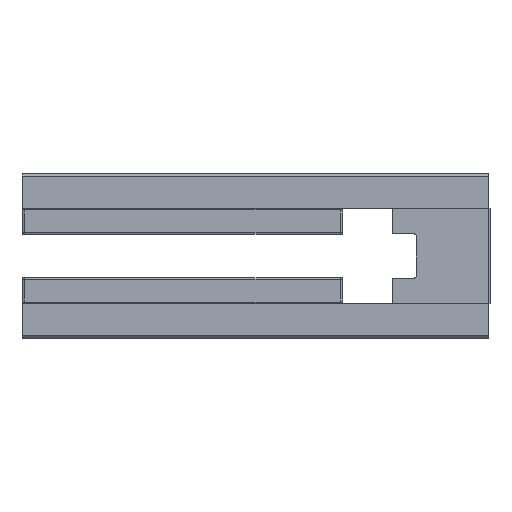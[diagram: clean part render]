
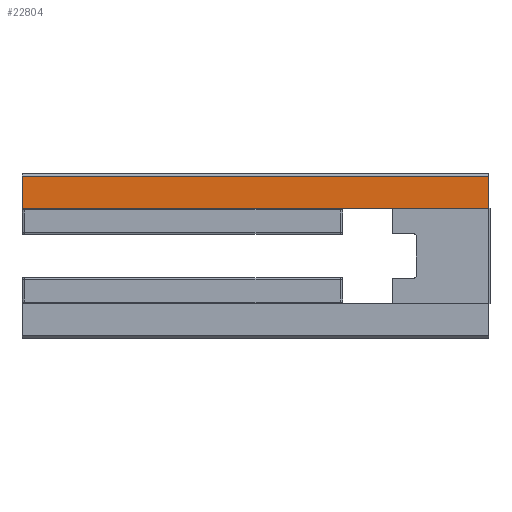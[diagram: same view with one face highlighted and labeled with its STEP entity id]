
A CAD part, front view. The second image highlights one B-rep face of the part: STEP entity #22804.
In plain terms, the highlighted planar face has unit normal (0, -1, 0).
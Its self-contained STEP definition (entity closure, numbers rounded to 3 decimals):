
#447 = EDGE_CURVE ( 'NONE', #37841, #25928, #29363, .T. ) ;
#1618 = CARTESIAN_POINT ( 'NONE',  ( 0., 19.04, 0. ) ) ;
#2524 = LINE ( 'NONE', #6292, #18206 ) ;
#3770 = AXIS2_PLACEMENT_3D ( 'NONE', #33394, #25109, #11148 ) ;
#4073 = FACE_OUTER_BOUND ( 'NONE', #14190, .T. ) ;
#4423 = VERTEX_POINT ( 'NONE', #9392 ) ;
#4488 = VECTOR ( 'NONE', #15404, 1000. ) ;
#6292 = CARTESIAN_POINT ( 'NONE',  ( 80., 19.04, -4. ) ) ;
#7826 = ORIENTED_EDGE ( 'NONE', *, *, #15874, .T. ) ;
#8925 = DIRECTION ( 'NONE',  ( 1., 0., 0. ) ) ;
#9325 = EDGE_CURVE ( 'NONE', #37841, #4423, #34007, .T. ) ;
#9392 = CARTESIAN_POINT ( 'NONE',  ( 80., 19.04, 0. ) ) ;
#9602 = DIRECTION ( 'NONE',  ( 0., 0., 1. ) ) ;
#10707 = PLANE ( 'NONE',  #3770 ) ;
#11148 = DIRECTION ( 'NONE',  ( 1., 0., 0. ) ) ;
#11162 = CARTESIAN_POINT ( 'NONE',  ( 80., 19.04, 5.5 ) ) ;
#12470 = VECTOR ( 'NONE', #8925, 1000. ) ;
#14190 = EDGE_LOOP ( 'NONE', ( #7826, #33931, #29765, #32758 ) ) ;
#15404 = DIRECTION ( 'NONE',  ( 0., 0., 1. ) ) ;
#15874 = EDGE_CURVE ( 'NONE', #4423, #39356, #2524, .T. ) ;
#18206 = VECTOR ( 'NONE', #9602, 1000. ) ;
#18304 = CARTESIAN_POINT ( 'NONE',  ( 0., 19.04, 0. ) ) ;
#18761 = LINE ( 'NONE', #32966, #24973 ) ;
#22804 = ADVANCED_FACE ( 'NONE', ( #4073 ), #10707, .F. ) ;
#24973 = VECTOR ( 'NONE', #26083, 1000. ) ;
#25109 = DIRECTION ( 'NONE',  ( 0., 1., 0. ) ) ;
#25928 = VERTEX_POINT ( 'NONE', #29125 ) ;
#26083 = DIRECTION ( 'NONE',  ( -1., 0., 0. ) ) ;
#29125 = CARTESIAN_POINT ( 'NONE',  ( 0., 19.04, 5.5 ) ) ;
#29363 = LINE ( 'NONE', #36485, #4488 ) ;
#29765 = ORIENTED_EDGE ( 'NONE', *, *, #447, .F. ) ;
#32758 = ORIENTED_EDGE ( 'NONE', *, *, #9325, .T. ) ;
#32966 = CARTESIAN_POINT ( 'NONE',  ( 0., 19.04, 5.5 ) ) ;
#33394 = CARTESIAN_POINT ( 'NONE',  ( 80., 19.04, -4. ) ) ;
#33931 = ORIENTED_EDGE ( 'NONE', *, *, #44298, .T. ) ;
#34007 = LINE ( 'NONE', #1618, #12470 ) ;
#36485 = CARTESIAN_POINT ( 'NONE',  ( 0., 19.04, -4. ) ) ;
#37841 = VERTEX_POINT ( 'NONE', #18304 ) ;
#39356 = VERTEX_POINT ( 'NONE', #11162 ) ;
#44298 = EDGE_CURVE ( 'NONE', #39356, #25928, #18761, .T. ) ;
